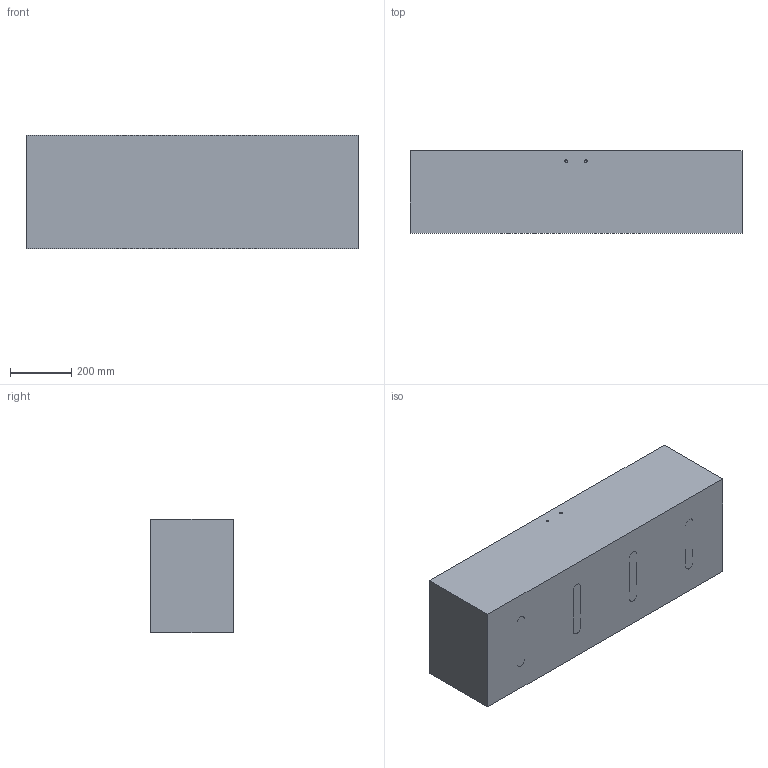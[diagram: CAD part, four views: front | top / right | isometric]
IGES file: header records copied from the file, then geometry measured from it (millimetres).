
Start section: SolidWorks IGES file using analytic representation for surfaces
Global section: file name: C:\Working\1740\New Folder\1741-931B-CLR OEM.IGS; native system: SolidWorks 2007; preprocessor: SolidWorks 2007; author: mhakami; date: 091007.131129; units: inch
Bounding box: 1082.03 x 269.68 x 369.31 mm (x, y, z)
Surface area: 2235189.4 mm2 (no closed solid volume)
Topology: 0 solids, 0 shells, 358 faces, 3072 edges, 3066 vertices
Faces by surface type: bspline 212, revolution 146
